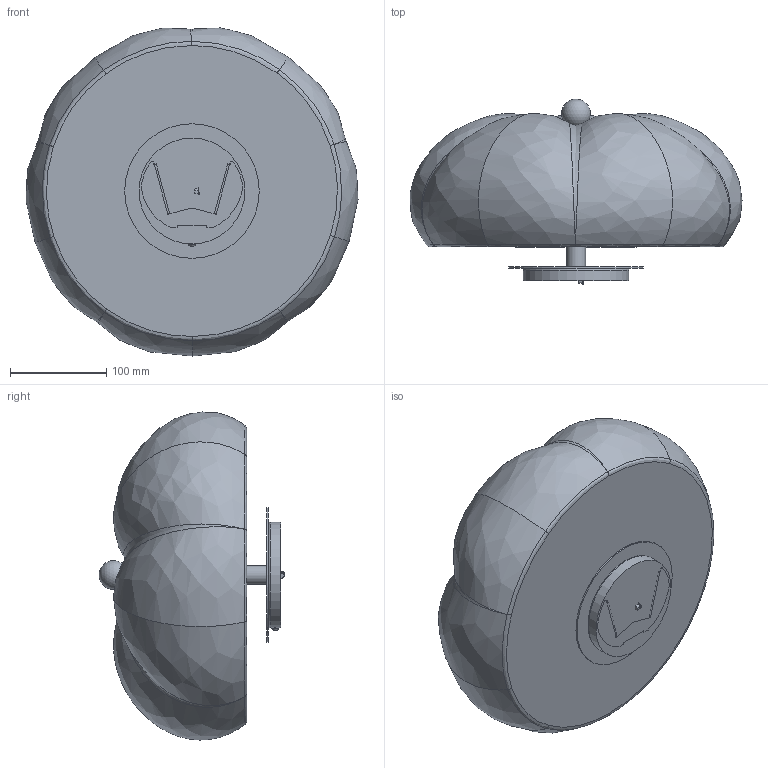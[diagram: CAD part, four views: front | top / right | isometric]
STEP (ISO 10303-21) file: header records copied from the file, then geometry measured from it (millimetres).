
FILE_DESCRIPTION(/* description */ (''),/* implementation_level */ '2;1');
FILE_NAME(/* name */ 'B754 Hana ceiling MD.stp',/* time_stamp */ '2025-10-22T13:36:20+02:00',/* author */ ('Dominik'),/* organization */ (''),/* preprocessor_version */ 'ST-DEVELOPER v20.1',/* originating_system */ 'Autodesk Inventor 2026',/* authorisation */ '');
FILE_SCHEMA (('AUTOMOTIVE_DESIGN { 1 0 10303 214 3 1 1 }'));
Length unit declared in the file: millimetre
Products named in the file (1): B754 Hana ceiling MD katalog
Bounding box: 345.35 x 193.17 x 341.31 mm (x, y, z)
Volume: 10379699.7 mm3; surface area: 347116.2 mm2
Topology: 10 solids, 10 shells, 167 faces, 382 edges, 232 vertices
Faces by surface type: plane 63, cylinder 48, bspline 43, torus 7, cone 5, sphere 1
Full cylindrical faces by diameter (mm): 4 x1, 7.6 x1, 11.917 x1, 20 x1, 34 x2, 110 x1, 140 x1
Entity records: 16653 total; most frequent: CARTESIAN_POINT 12833, ORIENTED_EDGE 756, DIRECTION 699, EDGE_CURVE 378, AXIS2_PLACEMENT_3D 272, VERTEX_POINT 232, STYLED_ITEM 177, EDGE_LOOP 168
